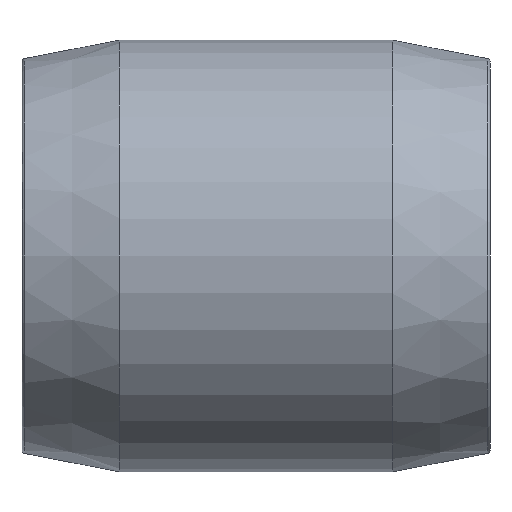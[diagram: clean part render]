
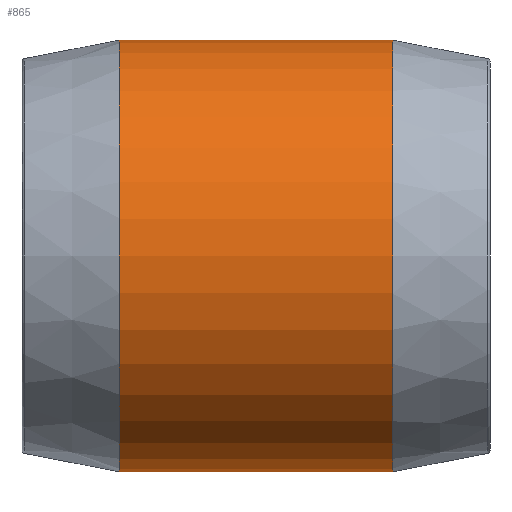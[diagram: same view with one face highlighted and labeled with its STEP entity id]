
A CAD part, front view. The second image highlights one B-rep face of the part: STEP entity #865.
In plain terms, the highlighted cylindrical face has radius 66.5 mm (diameter 133 mm), a partial arc.
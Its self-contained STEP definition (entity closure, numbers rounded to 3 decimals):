
#66 = EDGE_CURVE ( 'NONE', #112, #2735, #399, .T. ) ;
#112 = VERTEX_POINT ( 'NONE', #692 ) ;
#274 = ORIENTED_EDGE ( 'NONE', *, *, #1448, .T. ) ;
#371 = CARTESIAN_POINT ( 'NONE',  ( 124.2, 0., 66.5 ) ) ;
#386 = VECTOR ( 'NONE', #914, 1000. ) ;
#399 = CIRCLE ( 'NONE', #882, 66.5 ) ;
#412 = ORIENTED_EDGE ( 'NONE', *, *, #1479, .F. ) ;
#451 = EDGE_CURVE ( 'NONE', #890, #1039, #2469, .T. ) ;
#458 = VECTOR ( 'NONE', #1241, 1000. ) ;
#591 = CARTESIAN_POINT ( 'NONE',  ( 40., 0., 0. ) ) ;
#634 = FACE_OUTER_BOUND ( 'NONE', #920, .T. ) ;
#664 = CARTESIAN_POINT ( 'NONE',  ( 124.2, 0., 0. ) ) ;
#692 = CARTESIAN_POINT ( 'NONE',  ( 124.2, 0., -66.5 ) ) ;
#847 = ORIENTED_EDGE ( 'NONE', *, *, #66, .T. ) ;
#865 = ADVANCED_FACE ( 'NONE', ( #634 ), #1257, .T. ) ;
#882 = AXIS2_PLACEMENT_3D ( 'NONE', #664, #1327, #1270 ) ;
#890 = VERTEX_POINT ( 'NONE', #2009 ) ;
#914 = DIRECTION ( 'NONE',  ( -1., 0., 0. ) ) ;
#920 = EDGE_LOOP ( 'NONE', ( #412, #847, #274, #2738 ) ) ;
#1039 = VERTEX_POINT ( 'NONE', #1536 ) ;
#1241 = DIRECTION ( 'NONE',  ( -1., 0., 0. ) ) ;
#1257 = CYLINDRICAL_SURFACE ( 'NONE', #2666, 66.5 ) ;
#1270 = DIRECTION ( 'NONE',  ( 0., 0., 1. ) ) ;
#1327 = DIRECTION ( 'NONE',  ( -1., 0., 0. ) ) ;
#1364 = CARTESIAN_POINT ( 'NONE',  ( 0., 0., 0. ) ) ;
#1448 = EDGE_CURVE ( 'NONE', #2735, #1039, #1648, .T. ) ;
#1479 = EDGE_CURVE ( 'NONE', #112, #890, #2078, .T. ) ;
#1536 = CARTESIAN_POINT ( 'NONE',  ( 40., 0., 66.5 ) ) ;
#1648 = LINE ( 'NONE', #1907, #458 ) ;
#1790 = CARTESIAN_POINT ( 'NONE',  ( 0., 0., -66.5 ) ) ;
#1805 = DIRECTION ( 'NONE',  ( -1., 0., 0. ) ) ;
#1907 = CARTESIAN_POINT ( 'NONE',  ( 0., 0., 66.5 ) ) ;
#2009 = CARTESIAN_POINT ( 'NONE',  ( 40., 0., -66.5 ) ) ;
#2078 = LINE ( 'NONE', #1790, #386 ) ;
#2296 = DIRECTION ( 'NONE',  ( -1., 0., 0. ) ) ;
#2462 = DIRECTION ( 'NONE',  ( 0., 0., 1. ) ) ;
#2469 = CIRCLE ( 'NONE', #2470, 66.5 ) ;
#2470 = AXIS2_PLACEMENT_3D ( 'NONE', #591, #2296, #2711 ) ;
#2666 = AXIS2_PLACEMENT_3D ( 'NONE', #1364, #1805, #2462 ) ;
#2711 = DIRECTION ( 'NONE',  ( 0., 0., 1. ) ) ;
#2735 = VERTEX_POINT ( 'NONE', #371 ) ;
#2738 = ORIENTED_EDGE ( 'NONE', *, *, #451, .F. ) ;
